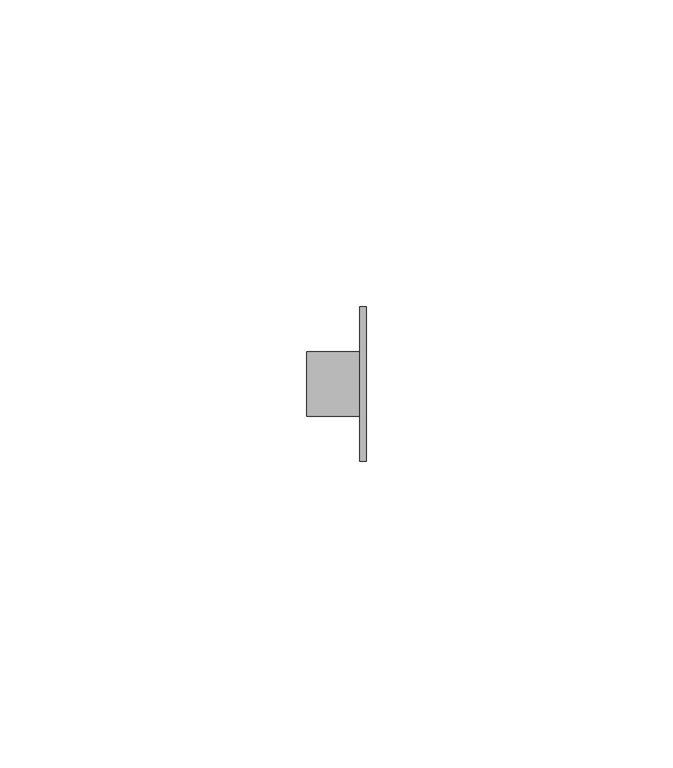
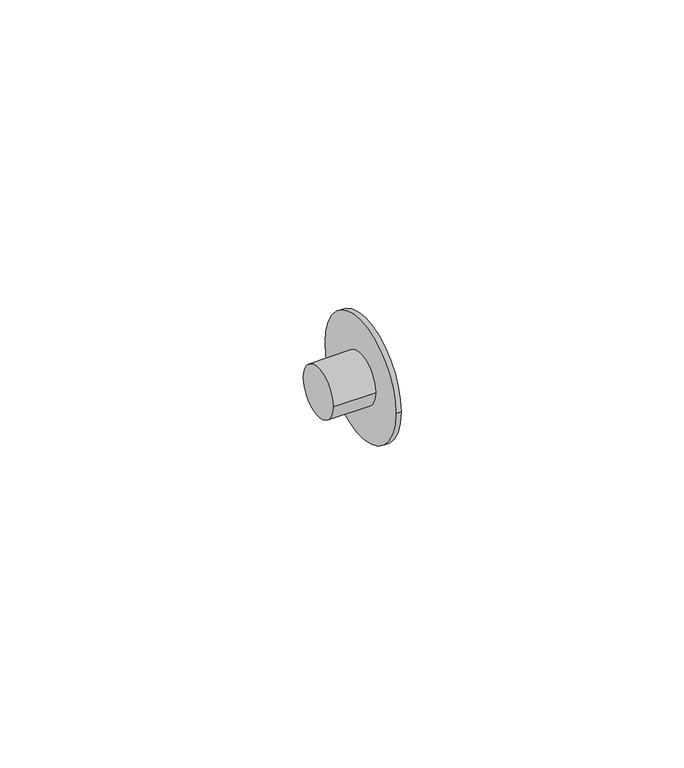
"""IFC4 building model written with IfcOpenShell, lengths in millimetres: pipe fitting geometry, Bucha de redução reta - Soldada - CU : Padrão."""

from ifc_helpers import new_model, si_unit, frame, origin, place, context, project, spatial, circle_curve, source, transform, mapped, element, save
from ifc_brep_helpers import plane_surface, cylinder_surface, advanced_brep


def pipe_fitting_8e7af1ed(model_context):
    return source(origin(), model_context, "Body", "AdvancedBrep", [
        advanced_brep(
        [(0.0, -5.2552, 0.0), (0.0, 5.2552, 0.0), (8.6744, -5.2552, 0.0), (8.6744, 5.2552, 0.0), (9.6744, -12.6, 0.0), (9.6744, 12.6, 0.0), (8.6744, 12.6, 0.0), (8.6744, -12.6, 0.0)],
        [
            (0, 1, circle_curve(frame((0.0, 0.0, 0.0), z_axis=(-1.0, 0.0, 0.0), x_axis=(0.0, 1.0, 0.0)), 5.2552)),
            (1, 0, circle_curve(frame((0.0, 0.0, 0.0), z_axis=(-1.0, 0.0, 0.0), x_axis=(0.0, 1.0, 0.0)), 5.2552)),
            (0, 2),
            (2, 3, circle_curve(frame((8.6744, 0.0, 0.0), z_axis=(-1.0, 0.0, 0.0), x_axis=(0.0, 1.0, 0.0)), 5.2552)),
            (3, 1),
            (3, 2, circle_curve(frame((8.6744, 0.0, 0.0), z_axis=(-1.0, 0.0, 0.0), x_axis=(0.0, 1.0, 0.0)), 5.2552)),
            (4, 5, circle_curve(frame((9.6744, 0.0, 0.0), z_axis=(1.0, 0.0, 0.0), x_axis=(0.0, 1.0, 0.0)), 12.6)),
            (5, 4, circle_curve(frame((9.6744, 0.0, 0.0), z_axis=(1.0, 0.0, 0.0), x_axis=(0.0, 1.0, 0.0)), 12.6)),
            (6, 7, circle_curve(frame((8.6744, 0.0, 0.0), z_axis=(1.0, 0.0, 0.0), x_axis=(0.0, 1.0, 0.0)), 12.6)),
            (7, 4),
            (5, 6),
            (7, 6, circle_curve(frame((8.6744, 0.0, 0.0), z_axis=(1.0, 0.0, 0.0), x_axis=(0.0, 1.0, 0.0)), 12.6)),
        ],
        [
            plane_surface(frame((0.0, 0.0, 0.0), z_axis=(-1.0, 0.0, 0.0), x_axis=(0.0, 0.0, 1.0))),
            cylinder_surface(frame((0.0, 0.0, 0.0), z_axis=(-1.0, 0.0, 0.0), x_axis=(0.0, 1.0, 0.0)), 5.2552),
            plane_surface(frame((9.6744, 0.0, 0.0), z_axis=(1.0, 0.0, 0.0), x_axis=(0.0, 0.0, 1.0))),
            cylinder_surface(frame((8.6744, 0.0, 0.0), z_axis=(-1.0, 0.0, 0.0), x_axis=(0.0, 1.0, 0.0)), 12.6),
            plane_surface(frame((8.6744, 0.0, 0.0), z_axis=(-1.0, 0.0, 0.0), x_axis=(0.0, 0.0, 1.0))),
        ],
        [
            (0, [[1, 2]]),
            (1, [[-1, 3, 4, 5]]),
            (1, [[-2, -5, 6, -3]]),
            (2, [[7, 8]]),
            (3, [[9, 10, -8, 11]]),
            (3, [[12, -11, -7, -10]]),
            (4, [[-9, -12], [-4, -6]]),
        ],
    ),
    ])


if __name__ == "__main__":
    model = new_model("IFC4")
    model_context = context("Model", 3, world=origin())
    ifc_project = project(units=[si_unit("LENGTHUNIT", "METRE", prefix="MILLI")], contexts=[model_context])
    site = spatial("IfcSite", under=ifc_project)
    building = spatial("IfcBuilding", under=site)
    placement = place(None, origin())
    pipe_fitting_shape = pipe_fitting_8e7af1ed(model_context)
    element("IfcPipeFitting", 1, ObjectType="Bucha de redução reta - Soldada - CU : Padrão", at=placement, inside=building, context=model_context, shape_type="MappedRepresentation", body=[
        mapped(pipe_fitting_shape, transform((0.0, 0.0, 0.0), x_axis=(1.0, 0.0, 0.0), y_axis=(0.0, 1.0, 0.0), z_axis=(0.0, 0.0, 1.0))),
    ])
    save(model, "model.ifc")
